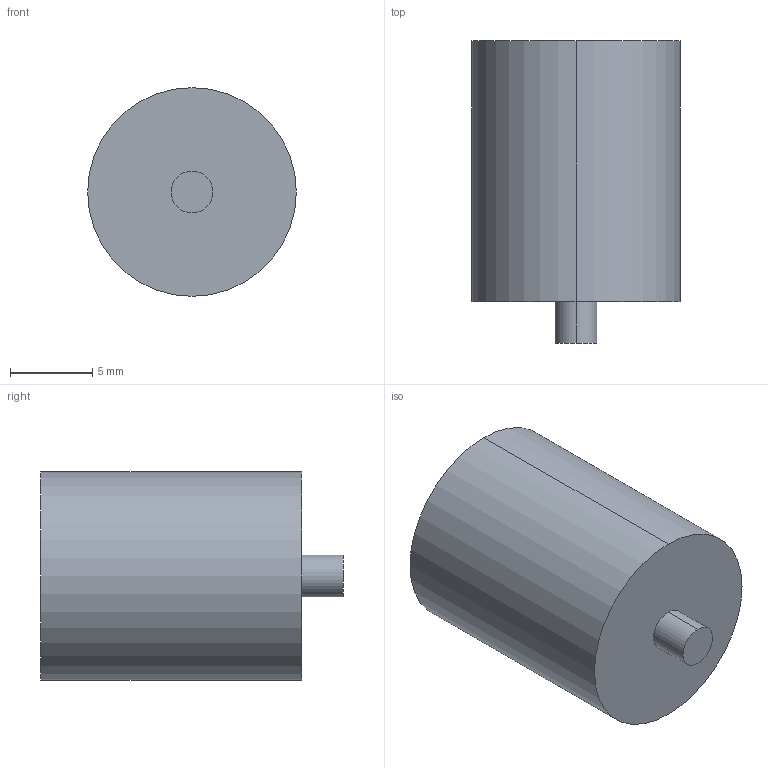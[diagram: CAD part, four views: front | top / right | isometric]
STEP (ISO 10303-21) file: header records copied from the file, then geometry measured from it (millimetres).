
FILE_DESCRIPTION (( 'STEP AP214' ), '1' );
FILE_NAME ('SS1146-3K.STEP', '2014-05-13T14:22:06', ( '' ), ( '' ), 'SwSTEP 2.0', 'SolidWorks 2008', '' );
FILE_SCHEMA (( 'AUTOMOTIVE_DESIGN' ));
Length unit declared in the file: inch
Products named in the file (1): SS1146-3K
Bounding box: 12.7 x 18.41 x 12.7 mm (x, y, z)
Volume: 2023.9 mm3; surface area: 907 mm2
Topology: 1 solids, 1 shells, 7 faces, 12 edges, 8 vertices
Faces by surface type: cylinder 4, plane 3
Entity records: 201 total; most frequent: DIRECTION 36, CARTESIAN_POINT 28, ORIENTED_EDGE 24, AXIS2_PLACEMENT_3D 16, EDGE_CURVE 12, EDGE_LOOP 8, VERTEX_POINT 8, CIRCLE 8
